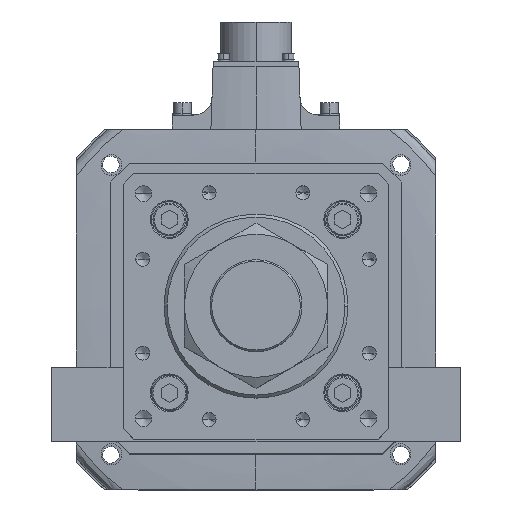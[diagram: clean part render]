
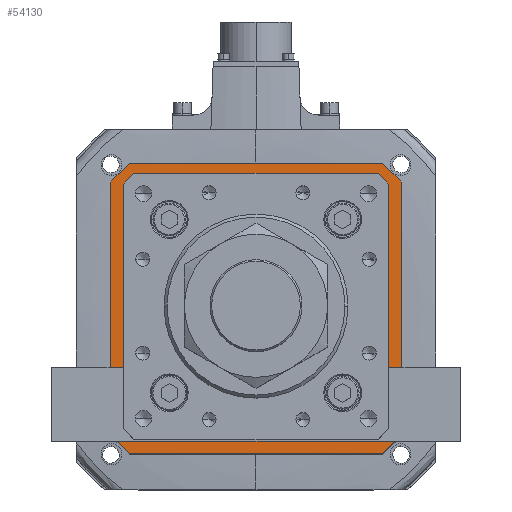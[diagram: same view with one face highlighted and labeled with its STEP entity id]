
A CAD part, top view. The second image highlights one B-rep face of the part: STEP entity #54130.
In plain terms, the highlighted planar face has unit normal (0, 0, 1).
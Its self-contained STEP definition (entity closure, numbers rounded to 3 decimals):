
#28 = ORIENTED_EDGE ( 'NONE', *, *, #46063, .T. ) ;
#670 = DIRECTION ( 'NONE',  ( 0., -1., 0. ) ) ;
#979 = CARTESIAN_POINT ( 'NONE',  ( 0., -63., -142. ) ) ;
#1641 = ORIENTED_EDGE ( 'NONE', *, *, #30997, .F. ) ;
#1815 = EDGE_LOOP ( 'NONE', ( #44552, #1641, #13759, #38723, #34601, #52987, #5482, #40163 ) ) ;
#2103 = EDGE_CURVE ( 'NONE', #50732, #14334, #3038, .T. ) ;
#2788 = VECTOR ( 'NONE', #39637, 1000. ) ;
#3038 = LINE ( 'NONE', #6096, #6404 ) ;
#4762 = CARTESIAN_POINT ( 'NONE',  ( -63., 58.793, -142. ) ) ;
#5482 = ORIENTED_EDGE ( 'NONE', *, *, #10628, .F. ) ;
#5590 = DIRECTION ( 'NONE',  ( 0., 0., 1. ) ) ;
#6096 = CARTESIAN_POINT ( 'NONE',  ( 71., 62., -142. ) ) ;
#6103 = LINE ( 'NONE', #979, #54654 ) ;
#6404 = VECTOR ( 'NONE', #49040, 1000. ) ;
#6518 = EDGE_LOOP ( 'NONE', ( #53334, #38864, #31887, #34513, #10309, #13732, #46022, #28 ) ) ;
#6837 = EDGE_CURVE ( 'NONE', #42878, #49277, #36289, .T. ) ;
#7474 = CARTESIAN_POINT ( 'NONE',  ( 0., 63., -142. ) ) ;
#7532 = VECTOR ( 'NONE', #49667, 1000. ) ;
#7766 = LINE ( 'NONE', #43633, #45471 ) ;
#7947 = DIRECTION ( 'NONE',  ( -0.707, -0.707, 0. ) ) ;
#8049 = CARTESIAN_POINT ( 'NONE',  ( 63., 0., -142. ) ) ;
#8981 = CARTESIAN_POINT ( 'NONE',  ( -71., 62., -142. ) ) ;
#9134 = DIRECTION ( 'NONE',  ( 1., 0., 0. ) ) ;
#9814 = CARTESIAN_POINT ( 'NONE',  ( 62., -71., -142. ) ) ;
#9824 = CARTESIAN_POINT ( 'NONE',  ( 58.793, 63., -142. ) ) ;
#10309 = ORIENTED_EDGE ( 'NONE', *, *, #43766, .T. ) ;
#10333 = VECTOR ( 'NONE', #22317, 1000. ) ;
#10556 = LINE ( 'NONE', #8049, #36765 ) ;
#10628 = EDGE_CURVE ( 'NONE', #14334, #15744, #31019, .T. ) ;
#12676 = VECTOR ( 'NONE', #48385, 1000. ) ;
#12897 = LINE ( 'NONE', #26829, #2788 ) ;
#12900 = CARTESIAN_POINT ( 'NONE',  ( -62., 71., -142. ) ) ;
#13456 = CARTESIAN_POINT ( 'NONE',  ( -71., 62., -142. ) ) ;
#13732 = ORIENTED_EDGE ( 'NONE', *, *, #24701, .T. ) ;
#13759 = ORIENTED_EDGE ( 'NONE', *, *, #36140, .F. ) ;
#14334 = VERTEX_POINT ( 'NONE', #17196 ) ;
#14785 = CARTESIAN_POINT ( 'NONE',  ( 60.896, 60.896, -142. ) ) ;
#14976 = EDGE_CURVE ( 'NONE', #15744, #42878, #7766, .T. ) ;
#15744 = VERTEX_POINT ( 'NONE', #37830 ) ;
#16135 = DIRECTION ( 'NONE',  ( 1., 0., 0. ) ) ;
#17030 = CARTESIAN_POINT ( 'NONE',  ( -58.793, -63., -142. ) ) ;
#17196 = CARTESIAN_POINT ( 'NONE',  ( 71., 62., -142. ) ) ;
#18684 = EDGE_CURVE ( 'NONE', #49277, #33437, #12897, .T. ) ;
#18895 = VECTOR ( 'NONE', #21723, 1000. ) ;
#19349 = EDGE_CURVE ( 'NONE', #32544, #44892, #54664, .T. ) ;
#19391 = CARTESIAN_POINT ( 'NONE',  ( 63., 58.793, -142. ) ) ;
#19734 = VERTEX_POINT ( 'NONE', #19391 ) ;
#19954 = CARTESIAN_POINT ( 'NONE',  ( -58.793, 63., -142. ) ) ;
#20089 = CARTESIAN_POINT ( 'NONE',  ( -63., -58.793, -142. ) ) ;
#20379 = CARTESIAN_POINT ( 'NONE',  ( 60.896, -60.896, -142. ) ) ;
#20390 = CARTESIAN_POINT ( 'NONE',  ( 62., -71., -142. ) ) ;
#21159 = DIRECTION ( 'NONE',  ( 0.707, -0.707, 0. ) ) ;
#21720 = VERTEX_POINT ( 'NONE', #9824 ) ;
#21723 = DIRECTION ( 'NONE',  ( 0.707, 0.707, 0. ) ) ;
#22317 = DIRECTION ( 'NONE',  ( 0., 1., 0. ) ) ;
#22456 = LINE ( 'NONE', #38686, #27823 ) ;
#22471 = EDGE_CURVE ( 'NONE', #55250, #21720, #55689, .T. ) ;
#22561 = CARTESIAN_POINT ( 'NONE',  ( -60.896, -60.896, -142. ) ) ;
#22611 = DIRECTION ( 'NONE',  ( -1., 0., 0. ) ) ;
#22651 = CARTESIAN_POINT ( 'NONE',  ( 62., 71., -142. ) ) ;
#24701 = EDGE_CURVE ( 'NONE', #53158, #55250, #22456, .T. ) ;
#25716 = DIRECTION ( 'NONE',  ( -0.707, -0.707, 0. ) ) ;
#25945 = AXIS2_PLACEMENT_3D ( 'NONE', #31286, #5590, #35286 ) ;
#26214 = LINE ( 'NONE', #22561, #51939 ) ;
#26718 = EDGE_CURVE ( 'NONE', #19734, #32544, #10556, .T. ) ;
#26829 = CARTESIAN_POINT ( 'NONE',  ( -62., -71., -142. ) ) ;
#27007 = FACE_OUTER_BOUND ( 'NONE', #1815, .T. ) ;
#27089 = DIRECTION ( 'NONE',  ( -1., 0., 0. ) ) ;
#27221 = VERTEX_POINT ( 'NONE', #17030 ) ;
#27823 = VECTOR ( 'NONE', #37942, 1000. ) ;
#27828 = CARTESIAN_POINT ( 'NONE',  ( 58.793, -63., -142. ) ) ;
#28704 = CARTESIAN_POINT ( 'NONE',  ( -62., -71., -142. ) ) ;
#28731 = LINE ( 'NONE', #40197, #12676 ) ;
#28941 = LINE ( 'NONE', #22651, #39093 ) ;
#30262 = EDGE_CURVE ( 'NONE', #38422, #50732, #28941, .T. ) ;
#30997 = EDGE_CURVE ( 'NONE', #41156, #38422, #37677, .T. ) ;
#31019 = LINE ( 'NONE', #45838, #7532 ) ;
#31286 = CARTESIAN_POINT ( 'NONE',  ( 0., 0., -142. ) ) ;
#31309 = VECTOR ( 'NONE', #21159, 1000. ) ;
#31887 = ORIENTED_EDGE ( 'NONE', *, *, #39346, .T. ) ;
#32544 = VERTEX_POINT ( 'NONE', #46192 ) ;
#33437 = VERTEX_POINT ( 'NONE', #47212 ) ;
#33837 = LINE ( 'NONE', #8981, #10333 ) ;
#34513 = ORIENTED_EDGE ( 'NONE', *, *, #38346, .T. ) ;
#34601 = ORIENTED_EDGE ( 'NONE', *, *, #6837, .F. ) ;
#35286 = DIRECTION ( 'NONE',  ( 1., 0., 0. ) ) ;
#35399 = LINE ( 'NONE', #14785, #31309 ) ;
#35468 = PLANE ( 'NONE',  #25945 ) ;
#36140 = EDGE_CURVE ( 'NONE', #33437, #41156, #33837, .T. ) ;
#36289 = LINE ( 'NONE', #9814, #46432 ) ;
#36765 = VECTOR ( 'NONE', #670, 1000. ) ;
#37677 = LINE ( 'NONE', #12900, #18895 ) ;
#37830 = CARTESIAN_POINT ( 'NONE',  ( 71., -62., -142. ) ) ;
#37942 = DIRECTION ( 'NONE',  ( 0.707, 0.707, 0. ) ) ;
#38346 = EDGE_CURVE ( 'NONE', #27221, #42367, #26214, .T. ) ;
#38422 = VERTEX_POINT ( 'NONE', #50094 ) ;
#38686 = CARTESIAN_POINT ( 'NONE',  ( -60.896, 60.896, -142. ) ) ;
#38723 = ORIENTED_EDGE ( 'NONE', *, *, #18684, .F. ) ;
#38864 = ORIENTED_EDGE ( 'NONE', *, *, #19349, .T. ) ;
#39093 = VECTOR ( 'NONE', #9134, 1000. ) ;
#39346 = EDGE_CURVE ( 'NONE', #44892, #27221, #6103, .T. ) ;
#39637 = DIRECTION ( 'NONE',  ( -0.707, 0.707, 0. ) ) ;
#40163 = ORIENTED_EDGE ( 'NONE', *, *, #2103, .F. ) ;
#40197 = CARTESIAN_POINT ( 'NONE',  ( -63., 0., -142. ) ) ;
#41156 = VERTEX_POINT ( 'NONE', #13456 ) ;
#42367 = VERTEX_POINT ( 'NONE', #20089 ) ;
#42478 = VECTOR ( 'NONE', #7947, 1000. ) ;
#42878 = VERTEX_POINT ( 'NONE', #20390 ) ;
#43633 = CARTESIAN_POINT ( 'NONE',  ( 71., -62., -142. ) ) ;
#43766 = EDGE_CURVE ( 'NONE', #42367, #53158, #28731, .T. ) ;
#44552 = ORIENTED_EDGE ( 'NONE', *, *, #30262, .F. ) ;
#44892 = VERTEX_POINT ( 'NONE', #27828 ) ;
#45471 = VECTOR ( 'NONE', #25716, 1000. ) ;
#45838 = CARTESIAN_POINT ( 'NONE',  ( 71., 62., -142. ) ) ;
#46022 = ORIENTED_EDGE ( 'NONE', *, *, #22471, .T. ) ;
#46063 = EDGE_CURVE ( 'NONE', #21720, #19734, #35399, .T. ) ;
#46192 = CARTESIAN_POINT ( 'NONE',  ( 63., -58.793, -142. ) ) ;
#46432 = VECTOR ( 'NONE', #27089, 1000. ) ;
#47212 = CARTESIAN_POINT ( 'NONE',  ( -71., -62., -142. ) ) ;
#48385 = DIRECTION ( 'NONE',  ( 0., 1., 0. ) ) ;
#49040 = DIRECTION ( 'NONE',  ( 0.707, -0.707, 0. ) ) ;
#49277 = VERTEX_POINT ( 'NONE', #28704 ) ;
#49667 = DIRECTION ( 'NONE',  ( 0., -1., 0. ) ) ;
#50017 = FACE_BOUND ( 'NONE', #6518, .T. ) ;
#50094 = CARTESIAN_POINT ( 'NONE',  ( -62., 71., -142. ) ) ;
#50732 = VERTEX_POINT ( 'NONE', #52165 ) ;
#51939 = VECTOR ( 'NONE', #52974, 1000. ) ;
#52165 = CARTESIAN_POINT ( 'NONE',  ( 62., 71., -142. ) ) ;
#52974 = DIRECTION ( 'NONE',  ( -0.707, 0.707, 0. ) ) ;
#52987 = ORIENTED_EDGE ( 'NONE', *, *, #14976, .F. ) ;
#53023 = VECTOR ( 'NONE', #16135, 1000. ) ;
#53158 = VERTEX_POINT ( 'NONE', #4762 ) ;
#53334 = ORIENTED_EDGE ( 'NONE', *, *, #26718, .T. ) ;
#54130 = ADVANCED_FACE ( 'NONE', ( #50017, #27007 ), #35468, .T. ) ;
#54654 = VECTOR ( 'NONE', #22611, 1000. ) ;
#54664 = LINE ( 'NONE', #20379, #42478 ) ;
#55250 = VERTEX_POINT ( 'NONE', #19954 ) ;
#55689 = LINE ( 'NONE', #7474, #53023 ) ;
